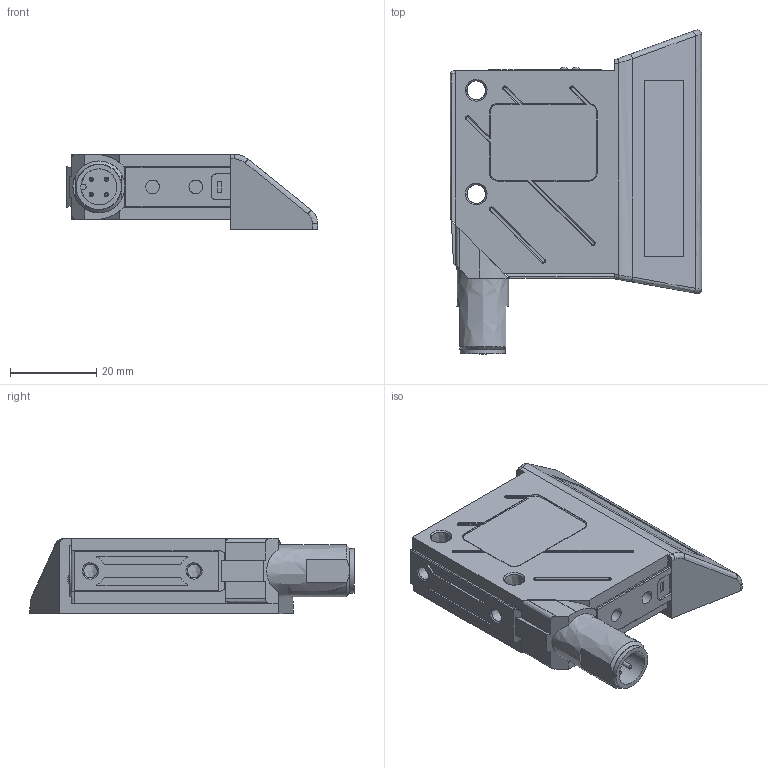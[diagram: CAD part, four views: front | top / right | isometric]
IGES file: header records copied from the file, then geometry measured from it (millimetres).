
Global section: file name: h:\bcl8_um_st.igs; preprocessor: I-DEAS 3D IGES Translator 11; date: 20080520.141645; units: millimetre
Bounding box: 58.2 x 75.02 x 17.45 mm (x, y, z)
Volume: 39617.4 mm3; surface area: 11002.4 mm2
Topology: 1 solids, 4 shells, 284 faces, 679 edges, 422 vertices
Faces by surface type: bspline 284
